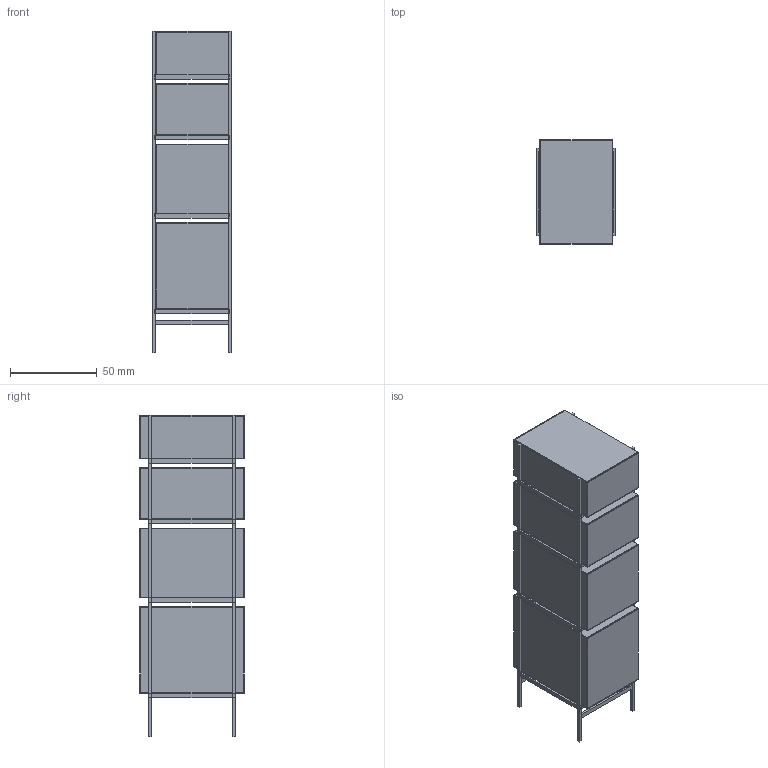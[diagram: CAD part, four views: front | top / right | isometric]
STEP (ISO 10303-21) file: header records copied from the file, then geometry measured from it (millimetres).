
FILE_DESCRIPTION(/* description */ (''),/* implementation_level */ '2;1');
FILE_NAME(/* name */ 'lyn',/* time_stamp */ '2022-02-01T08:42:54+01:00',/* author */ (''),/* organization */ (''),/* preprocessor_version */ 'ST-DEVELOPER v16.5',/* originating_system */ '',/* authorisation */ '');
FILE_SCHEMA (('CONFIG_CONTROL_DESIGN'));
Length unit declared in the file: millimetre
Products named in the file (1): Document
Bounding box: 45 x 60 x 185 mm (x, y, z)
Volume: 20293.3 mm3; surface area: 93803.5 mm2
Topology: 42 solids, 42 shells, 252 faces, 504 edges, 336 vertices
Faces by surface type: plane 232, bspline 20
Entity records: 5656 total; most frequent: CARTESIAN_POINT 1658, ORIENTED_EDGE 1008, EDGE_CURVE 504, B_SPLINE_CURVE_WITH_KNOTS 504, VERTEX_POINT 336, ADVANCED_FACE 252, FACE_OUTER_BOUND 252, EDGE_LOOP 252
